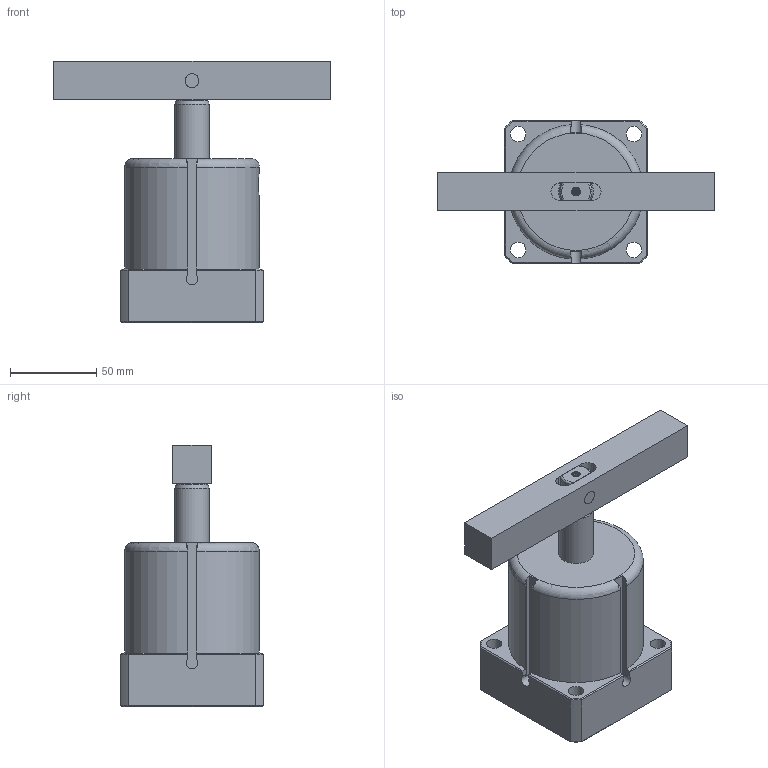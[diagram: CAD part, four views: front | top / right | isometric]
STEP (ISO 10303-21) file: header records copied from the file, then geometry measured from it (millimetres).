
FILE_DESCRIPTION(/* description */ ('Unknown'),/* implementation_level */ '2;1');
FILE_NAME(/* name */ 'ASC-MS63D-B',/* time_stamp */ '2019-05-20T15:25:01+08:00',/* author */ ('Unknown'),/* organization */ ('Unknown'),/* preprocessor_version */ 'ST-DEVELOPER v16.7',/* originating_system */ 'DEX',/* authorisation */ $);
FILE_SCHEMA (('AUTOMOTIVE_DESIGN {1 0 10303 214 3 1 1}'));
Length unit declared in the file: millimetre
Products named in the file (5): ASC-MS63D-B; ASC-MS63D-CYLINDER; ASC-6302-D-AXLE CENTRE; ASC-63D-B; ASC-6302-D-FIXED PIN
Assembly tree (4 placements, depth 2):
  ASC-MS63D-B
    ASC-MS63D-CYLINDER
    ASC-6302-D-AXLE CENTRE
    ASC-63D-B
    ASC-6302-D-FIXED PIN
Bounding box: 160 x 83 x 151.2 mm (x, y, z)
Volume: 494458.9 mm3; surface area: 92279.2 mm2
Topology: 4 solids, 4 shells, 142 faces, 325 edges, 204 vertices
Faces by surface type: plane 76, cylinder 32, cone 17, bspline 12, torus 5
Full cylindrical faces by diameter (mm): 6 x2, 8 x4, 8.8 x2, 9 x4, 15 x2, 20 x2, 63 x2
Entity records: 4656 total; most frequent: CARTESIAN_POINT 963, DIRECTION 596, ORIENTED_EDGE 570, EDGE_CURVE 285, AXIS2_PLACEMENT_3D 236, EDGE_LOOP 201, FACE_BOUND 201, VERTEX_POINT 194
